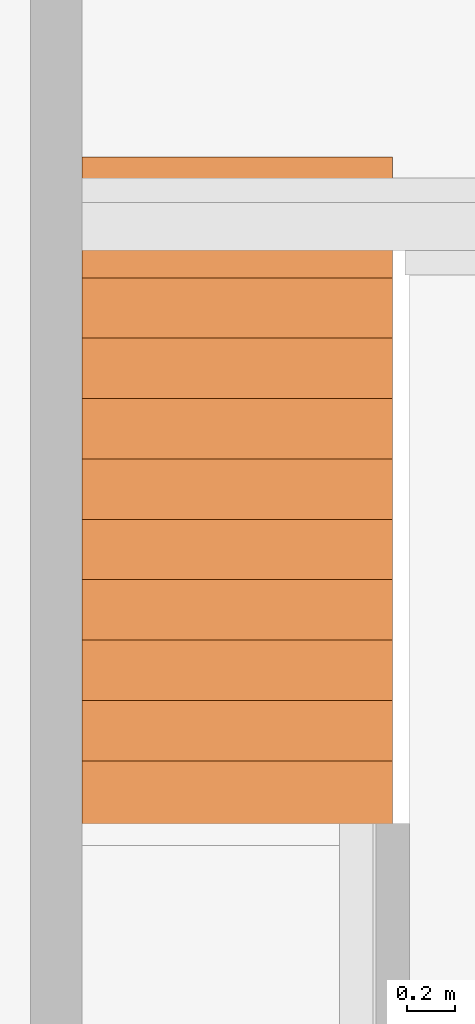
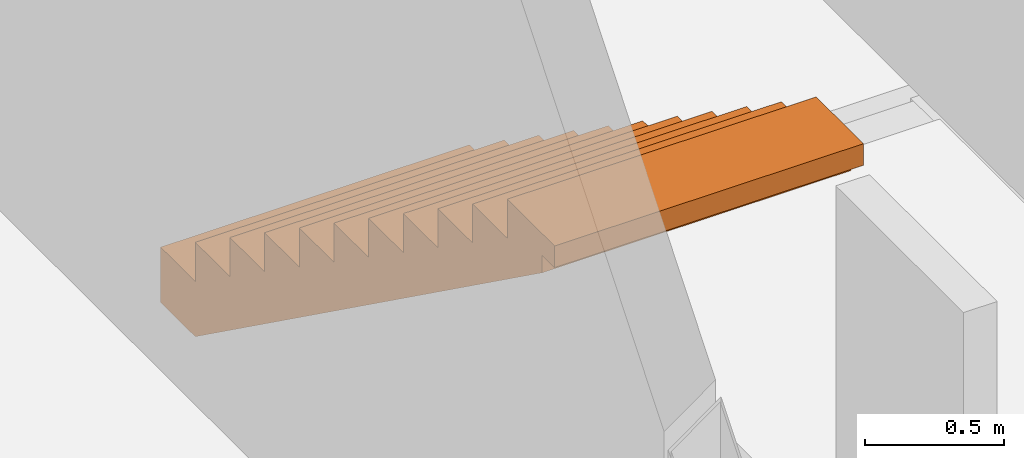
# One storey, part 14 of 14: 1 proxy.
"""IFC2X3 building model written with IfcOpenShell, lengths in millimetres."""

from ifc_helpers import new_model, entity, si_unit, converted_unit, derived_unit, direction, frame, origin, place, context, subcontext, project, spatial, polyline, outline, extrude, source, transform, mapped, material, type_object, type_shapes, element, save


model = new_model("IFC2X3")

# Units and contexts
model_context = context("Model", 3, precision=0.01, world=origin(), true_north=direction((6.123031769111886e-17, 1.0)))
body_context = subcontext(model_context, "Body", "Model", "MODEL_VIEW")
ifc_project = project(units=[si_unit("LENGTHUNIT", "METRE", prefix="MILLI"), si_unit("AREAUNIT", "SQUARE_METRE", prefix="MILLI"), si_unit("VOLUMEUNIT", "CUBIC_METRE"), converted_unit("PLANEANGLEUNIT", "DEGREE", entity("IfcPlaneAngleMeasure", 0.017453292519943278), si_unit("PLANEANGLEUNIT", "RADIAN"), dimensions=[0, 0, 0, 0, 0, 0, 0]), si_unit("MASSUNIT", "GRAM", prefix="KILO"), derived_unit("MASSDENSITYUNIT", [(si_unit("MASSUNIT", "GRAM", prefix="KILO"), 1), (si_unit("LENGTHUNIT", "METRE"), -3)]), derived_unit("IONCONCENTRATIONUNIT", [(si_unit("MASSUNIT", "GRAM", prefix="KILO"), 1), (si_unit("LENGTHUNIT", "METRE"), -3)]), derived_unit("MOMENTOFINERTIAUNIT", [(si_unit("LENGTHUNIT", "METRE"), 4)]), si_unit("TIMEUNIT", "SECOND"), si_unit("FREQUENCYUNIT", "HERTZ"), si_unit("THERMODYNAMICTEMPERATUREUNIT", "DEGREE_CELSIUS"), derived_unit("THERMALTRANSMITTANCEUNIT", [(si_unit("MASSUNIT", "GRAM", prefix="KILO"), 1), (si_unit("THERMODYNAMICTEMPERATUREUNIT", "KELVIN"), -1), (si_unit("TIMEUNIT", "SECOND"), -3)]), derived_unit("THERMALCONDUCTANCEUNIT", [(si_unit("MASSUNIT", "GRAM", prefix="KILO"), 1), (si_unit("THERMODYNAMICTEMPERATUREUNIT", "KELVIN"), -1), (si_unit("TIMEUNIT", "SECOND"), -3), (si_unit("LENGTHUNIT", "METRE"), 1)]), derived_unit("VOLUMETRICFLOWRATEUNIT", [(si_unit("LENGTHUNIT", "METRE", prefix="DECI"), 3), (si_unit("TIMEUNIT", "SECOND"), -1)]), derived_unit("MASSFLOWRATEUNIT", [(si_unit("MASSUNIT", "GRAM", prefix="KILO"), 1), (si_unit("TIMEUNIT", "SECOND"), -1)]), derived_unit("ROTATIONALFREQUENCYUNIT", [(si_unit("TIMEUNIT", "SECOND"), -1)]), si_unit("ELECTRICCURRENTUNIT", "AMPERE"), si_unit("ELECTRICVOLTAGEUNIT", "VOLT"), si_unit("POWERUNIT", "WATT"), si_unit("FORCEUNIT", "NEWTON", prefix="KILO"), si_unit("ILLUMINANCEUNIT", "LUX"), si_unit("LUMINOUSFLUXUNIT", "LUMEN"), si_unit("LUMINOUSINTENSITYUNIT", "CANDELA"), si_unit("ENERGYUNIT", "JOULE"), derived_unit("USERDEFINED", [(si_unit("MASSUNIT", "GRAM", prefix="KILO"), -1), (si_unit("LENGTHUNIT", "METRE"), -2), (si_unit("TIMEUNIT", "SECOND"), 3), (si_unit("LUMINOUSFLUXUNIT", "LUMEN"), 1)]), derived_unit("USERDEFINED", [(si_unit("MASSUNIT", "GRAM", prefix="KILO"), 1), (si_unit("TIMEUNIT", "SECOND"), -3), (si_unit("LENGTHUNIT", "METRE"), 3), (si_unit("ELECTRICCURRENTUNIT", "AMPERE"), -2)]), derived_unit("SOUNDPOWERUNIT", [(si_unit("MASSUNIT", "GRAM", prefix="KILO"), 1), (si_unit("TIMEUNIT", "SECOND"), -3), (si_unit("LENGTHUNIT", "METRE"), 2)]), derived_unit("SOUNDPRESSUREUNIT", [(si_unit("MASSUNIT", "GRAM", prefix="KILO"), 1), (si_unit("LENGTHUNIT", "METRE"), -1), (si_unit("TIMEUNIT", "SECOND"), -2)]), derived_unit("LINEARVELOCITYUNIT", [(si_unit("LENGTHUNIT", "METRE"), 1), (si_unit("TIMEUNIT", "SECOND"), -1)]), si_unit("PRESSUREUNIT", "PASCAL"), derived_unit("USERDEFINED", [(si_unit("MASSUNIT", "GRAM", prefix="KILO"), 1), (si_unit("LENGTHUNIT", "METRE"), -2), (si_unit("TIMEUNIT", "SECOND"), -2)]), derived_unit("LINEARFORCEUNIT", [(si_unit("MASSUNIT", "GRAM", prefix="KILO"), 1), (si_unit("TIMEUNIT", "SECOND"), -2)]), derived_unit("PLANARFORCEUNIT", [(si_unit("MASSUNIT", "GRAM", prefix="KILO"), 1), (si_unit("LENGTHUNIT", "METRE"), -1), (si_unit("TIMEUNIT", "SECOND"), -2)]), derived_unit("SPECIFICHEATCAPACITYUNIT", [(si_unit("THERMODYNAMICTEMPERATUREUNIT", "KELVIN"), -1), (si_unit("LENGTHUNIT", "METRE"), 2), (si_unit("TIMEUNIT", "SECOND"), -2)]), derived_unit("HEATFLUXDENSITYUNIT", [(si_unit("MASSUNIT", "GRAM", prefix="KILO"), 1), (si_unit("TIMEUNIT", "SECOND"), -3)]), derived_unit("HEATINGVALUEUNIT", [(si_unit("LENGTHUNIT", "METRE"), 2), (si_unit("TIMEUNIT", "SECOND"), -2)]), derived_unit("VAPORPERMEABILITYUNIT", [(si_unit("LENGTHUNIT", "METRE"), -1), (si_unit("TIMEUNIT", "SECOND"), 1)]), derived_unit("DYNAMICVISCOSITYUNIT", [(si_unit("MASSUNIT", "GRAM", prefix="KILO"), 1), (si_unit("TIMEUNIT", "SECOND"), -1), (si_unit("LENGTHUNIT", "METRE"), -1)]), derived_unit("THERMALEXPANSIONCOEFFICIENTUNIT", [(si_unit("THERMODYNAMICTEMPERATUREUNIT", "KELVIN"), -1)]), derived_unit("MODULUSOFELASTICITYUNIT", [(si_unit("MASSUNIT", "GRAM", prefix="KILO"), 1), (si_unit("LENGTHUNIT", "METRE"), -1), (si_unit("TIMEUNIT", "SECOND"), -2)]), derived_unit("ISOTHERMALMOISTURECAPACITYUNIT", [(si_unit("MASSUNIT", "GRAM", prefix="KILO"), -1), (si_unit("LENGTHUNIT", "METRE"), 3)]), derived_unit("MOISTUREDIFFUSIVITYUNIT", [(si_unit("TIMEUNIT", "SECOND"), -1), (si_unit("LENGTHUNIT", "METRE"), 2)]), derived_unit("MASSPERLENGTHUNIT", [(si_unit("MASSUNIT", "GRAM", prefix="KILO"), 1), (si_unit("LENGTHUNIT", "METRE"), -1)]), derived_unit("THERMALRESISTANCEUNIT", [(si_unit("MASSUNIT", "GRAM", prefix="KILO"), -1), (si_unit("TIMEUNIT", "SECOND"), 3), (si_unit("THERMODYNAMICTEMPERATUREUNIT", "KELVIN"), 1)]), derived_unit("ACCELERATIONUNIT", [(si_unit("LENGTHUNIT", "METRE"), 1), (si_unit("TIMEUNIT", "SECOND"), -2)]), derived_unit("ANGULARVELOCITYUNIT", [(si_unit("TIMEUNIT", "SECOND"), -1), (si_unit("PLANEANGLEUNIT", "RADIAN"), 1)]), derived_unit("LINEARSTIFFNESSUNIT", [(si_unit("MASSUNIT", "GRAM", prefix="KILO"), 1), (si_unit("TIMEUNIT", "SECOND"), -2)]), derived_unit("WARPINGCONSTANTUNIT", [(si_unit("LENGTHUNIT", "METRE"), 6)]), derived_unit("LINEARMOMENTUNIT", [(si_unit("MASSUNIT", "GRAM", prefix="KILO"), 1), (si_unit("LENGTHUNIT", "METRE"), 1), (si_unit("TIMEUNIT", "SECOND"), -2)]), derived_unit("TORQUEUNIT", [(si_unit("MASSUNIT", "GRAM", prefix="KILO"), 1), (si_unit("LENGTHUNIT", "METRE"), 2), (si_unit("TIMEUNIT", "SECOND"), -2)])], contexts=[model_context])

# Site, building, storey
site_placement = place(None, origin())
site = spatial("IfcSite", under=ifc_project, at=site_placement, Name="Default", CompositionType="ELEMENT")
building_placement = place(site_placement, origin())
building = spatial("IfcBuilding", under=site, at=building_placement, CompositionType="ELEMENT")
storey_placement = place(building_placement, frame((0.0, 0.0, 3730.0)))
storey = spatial("IfcBuildingStorey", under=building, at=storey_placement, Name="V1 1e verd. (bk ruwe vloer)", CompositionType="ELEMENT", Elevation=3729.9999999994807)

# Proxy
ifc_material = material(Name="Beton, prefab C35/45")
building_element_proxy_type = type_object("IfcBuildingElementProxyType", Name="Generic Models 9:Generic Models 4", PredefinedType="NOTDEFINED", material=ifc_material)
shared_shape = source(origin(), body_context, "Body", "SweptSolid", [
    extrude(outline(polyline([(-1488.5714285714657, -894.8935176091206), (-1488.5714285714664, -1137.5935176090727), (-1238.5714285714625, -1137.593517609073), (1261.42857142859, 659.524975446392), (1261.4285714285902, 737.1064823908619), (1351.4285714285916, 737.1064823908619), (1351.4285714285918, 832.1064823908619), (1011.4285714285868, 832.1064823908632), (1011.4285714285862, 659.4064823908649), (761.4285714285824, 659.4064823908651), (761.4285714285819, 486.70648239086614), (511.428571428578, 486.7064823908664), (511.42857142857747, 314.0064823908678), (261.42857142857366, 314.0064823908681), (261.4285714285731, 141.30648239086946), (11.42857142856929, 141.30648239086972), (11.428571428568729, -31.393517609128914), (-238.57142857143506, -31.393517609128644), (-238.57142857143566, -204.09351760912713), (-488.5714285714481, -204.09351760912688), (-488.5714285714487, -376.79351760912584), (-738.5714285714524, -376.79351760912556), (-738.571428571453, -549.493517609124), (-988.5714285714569, -549.493517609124), (-988.5714285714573, -722.1935176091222), (-1238.5714285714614, -722.1935176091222), (-1238.5714285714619, -894.8935176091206), (-1488.5714285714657, -894.8935176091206)])), frame((27631.97952010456, 40306.00177649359, 1067.5935176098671), z_axis=(-1.0, 0.0, 0.0), x_axis=(0.0, -1.0, 0.0)), (0.0, 0.0, -1.0), 1285.2662228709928),
])
type_shapes(building_element_proxy_type, [shared_shape])
proxy_placement = place(storey_placement, frame((0.0, 0.0, 70.0)))
element("IfcBuildingElementProxy", 1, at=proxy_placement, inside=storey, type_object=building_element_proxy_type, material=ifc_material, Name="Generic Models 9:Generic Models 4", ObjectType="Generic Models 9:Generic Models 4", context=body_context, shape_type="MappedRepresentation", body=[
    mapped(shared_shape, transform((0.0, 0.0, 0.0), scale=1.0)),
])

save(model, "model.ifc")
